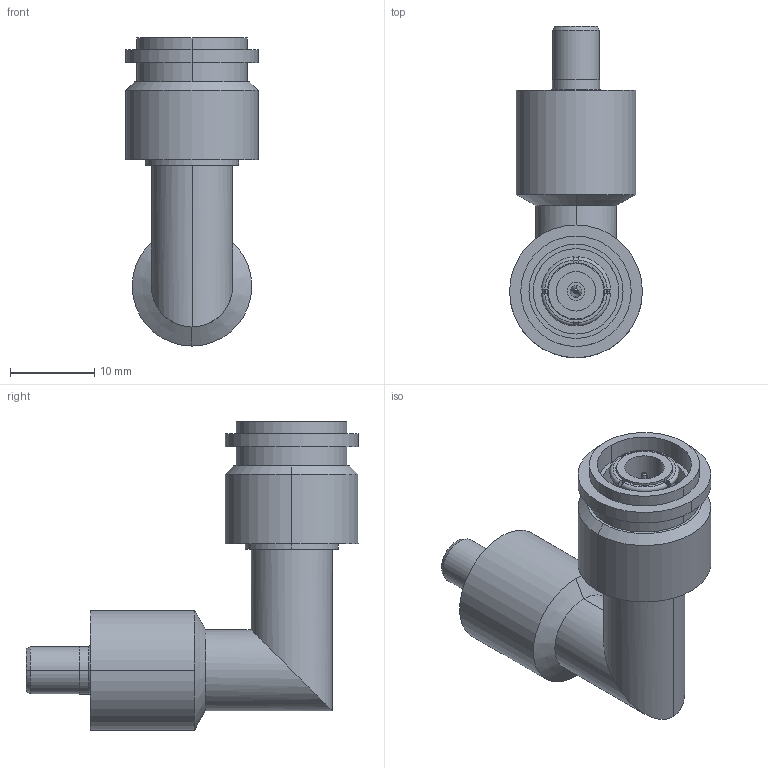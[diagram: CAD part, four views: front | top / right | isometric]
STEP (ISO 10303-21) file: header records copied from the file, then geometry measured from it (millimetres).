
FILE_DESCRIPTION((''),'2;1');
FILE_NAME('CTRE922','2019-11-21T10:28:50',('paul.nurczyk'),('Carlisle Interconnect Technologies'),'CREO PARAMETRIC BY PTC INC, 2017260','CREO PARAMETRIC BY PTC INC, 2017260','');
FILE_SCHEMA(('AUTOMOTIVE_DESIGN { 1 0 10303 214 1 1 1 1 }'));
Length unit declared in the file: inch
Products named in the file (1): CTRE922
Bounding box: 15.8 x 39.5 x 36.65 mm (x, y, z)
Volume: 6204.9 mm3; surface area: 3950.4 mm2
Topology: 1 solids, 1 shells, 110 faces, 252 edges, 162 vertices
Faces by surface type: cylinder 46, plane 36, cone 16, torus 12
Entity records: 3893 total; most frequent: CARTESIAN_POINT 694, DIRECTION 578, ORIENTED_EDGE 504, EDGE_CURVE 252, AXIS2_PLACEMENT_3D 244, VERTEX_POINT 162, CIRCLE 134, EDGE_LOOP 128
